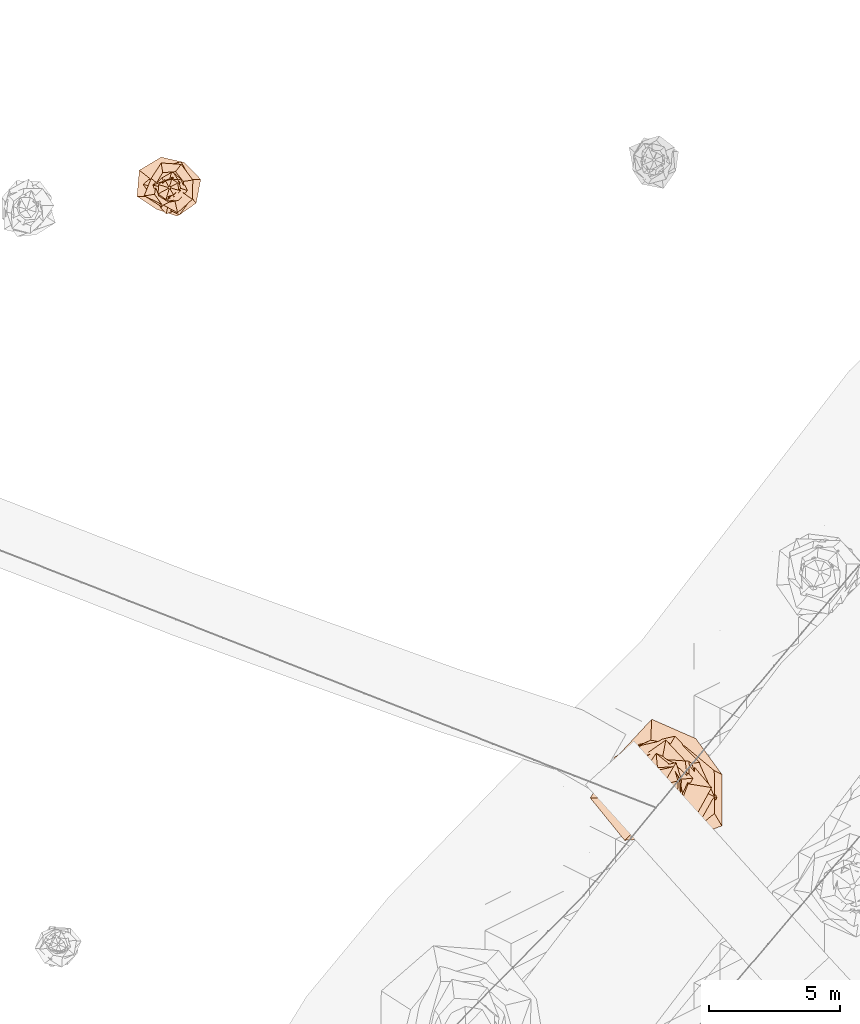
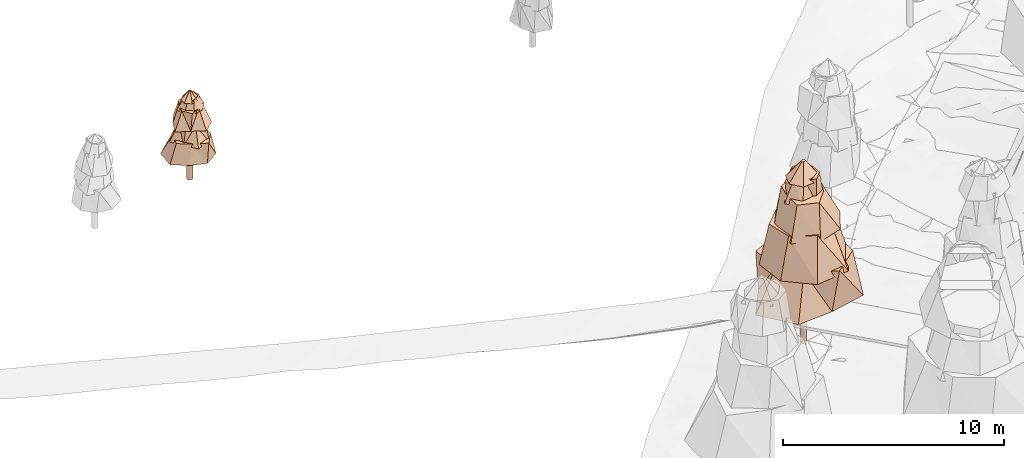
# Not in any storey, part 23 of 88: 2 geographic elements.
"""IFC4 model written with IfcOpenShell, lengths in metres."""

from ifc_helpers import new_model, si_unit, frame, origin_with_axes, place, context, subcontext, project, spatial, circle, extrude, faceted_brep, element, save


model = new_model("IFC4")

# Units and contexts
model_context = context("Model", 3, precision=1e-05, world=origin_with_axes())
body_context = subcontext(model_context, "Body", "Model", "MODEL_VIEW")
ifc_project = project(units=[si_unit("LENGTHUNIT", "METRE"), si_unit("AREAUNIT", "SQUARE_METRE"), si_unit("VOLUMEUNIT", "CUBIC_METRE"), si_unit("PLANEANGLEUNIT", "RADIAN")], contexts=[model_context])

# Sites
site_1_placement = place(None, origin_with_axes())
site_1 = spatial("IfcSite", under=ifc_project, at=site_1_placement, Name="CH907857693633", CompositionType="ELEMENT")
site_2_placement = place(None, origin_with_axes())
site_2 = spatial("IfcSite", under=site_1, at=site_2_placement, Name="Vegetation", CompositionType="ELEMENT")

# Geographic element
geographic_element_1_placement = place(None, frame((29.9160000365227, 45.4330034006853, 2.49444580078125), z_axis=(0.0, 0.0, 1.0), x_axis=(1.0, 0.0, 0.0)))
element("IfcGeographicElement", 1, at=geographic_element_1_placement, inside=site_2, Name="Tree_einzelbaum", ObjectType="VEGETATION", PredefinedType="USERDEFINED", context=body_context, shape_type="Brep", body=[
    extrude(circle(Radius=0.15), origin_with_axes(), (0.0, 0.0, 1.0), 1.36876049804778),
    faceted_brep([(1.02509508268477, -0.594339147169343, 1.36876049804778), (0.289136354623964, -1.08701301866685, 1.36876049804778), (-0.481106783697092, -0.82979591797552, 1.36876049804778), (-1.23784263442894, -0.329255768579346, 1.36876049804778), (-1.15007882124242, 0.666803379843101, 1.36876049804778), (-0.310788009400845, 1.16841278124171, 1.36876049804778), (0.561217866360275, 0.967968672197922, 1.36876049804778), (1.20370304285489, 0.32017492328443, 1.36876049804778), (0.824535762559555, 0.310331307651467, 2.43343140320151), (0.449767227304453, 0.992651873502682, 2.43343140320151), (-0.299798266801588, 0.79654996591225, 2.43343140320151), (-0.711621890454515, 0.322433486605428, 2.43343140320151), (-0.905192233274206, -0.340688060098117, 2.43343140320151), (-0.324277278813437, -0.71569120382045, 2.43343140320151), (0.391330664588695, -1.03974726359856, 2.43343140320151), (0.860430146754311, -0.389858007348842, 2.43343140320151), (1.20370304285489, 0.32017492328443, 1.36876049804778), (0.561217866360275, 0.967968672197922, 1.36876049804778), (0.449767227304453, 0.992651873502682, 2.43343140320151), (0.824535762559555, 0.310331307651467, 2.43343140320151), (0.561217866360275, 0.967968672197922, 1.36876049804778), (-0.310788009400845, 1.16841278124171, 1.36876049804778), (-0.299798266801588, 0.79654996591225, 2.43343140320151), (0.449767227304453, 0.992651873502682, 2.43343140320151), (-0.310788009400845, 1.16841278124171, 1.36876049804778), (-1.15007882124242, 0.666803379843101, 1.36876049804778), (-0.711621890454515, 0.322433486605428, 2.43343140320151), (-0.299798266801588, 0.79654996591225, 2.43343140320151), (-1.15007882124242, 0.666803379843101, 1.36876049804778), (-1.23784263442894, -0.329255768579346, 1.36876049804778), (-0.905192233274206, -0.340688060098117, 2.43343140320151), (-0.711621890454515, 0.322433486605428, 2.43343140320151), (-1.23784263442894, -0.329255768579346, 1.36876049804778), (-0.481106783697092, -0.82979591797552, 1.36876049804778), (-0.324277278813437, -0.71569120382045, 2.43343140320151), (-0.905192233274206, -0.340688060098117, 2.43343140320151), (-0.481106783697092, -0.82979591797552, 1.36876049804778), (0.289136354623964, -1.08701301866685, 1.36876049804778), (0.391330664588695, -1.03974726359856, 2.43343140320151), (-0.324277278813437, -0.71569120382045, 2.43343140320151), (0.289136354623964, -1.08701301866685, 1.36876049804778), (1.02509508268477, -0.594339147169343, 1.36876049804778), (0.860430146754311, -0.389858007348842, 2.43343140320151), (0.391330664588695, -1.03974726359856, 2.43343140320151), (1.02509508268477, -0.594339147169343, 1.36876049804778), (1.20370304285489, 0.32017492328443, 1.36876049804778), (0.824535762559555, 0.310331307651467, 2.43343140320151), (0.860430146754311, -0.389858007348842, 2.43343140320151)], [[[0, 1, 2, 3, 4, 5, 6, 7]], [[8, 9, 10, 11, 12, 13, 14, 15]], [[16, 17, 18, 19]], [[20, 21, 22, 23]], [[24, 25, 26, 27]], [[28, 29, 30, 31]], [[32, 33, 34, 35]], [[36, 37, 38, 39]], [[40, 41, 42, 43]], [[44, 45, 46, 47]]]),
    faceted_brep([(0.743231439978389, -0.0912646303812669, 2.27373076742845), (0.579574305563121, -0.741836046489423, 2.27373076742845), (-0.123508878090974, -1.00581880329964, 2.27373076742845), (-0.589336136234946, -0.460430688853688, 2.27373076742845), (-1.00179940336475, 0.123015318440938, 2.27373076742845), (-0.465725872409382, 0.596113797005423, 2.27373076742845), (0.107082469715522, 0.872047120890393, 2.27373076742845), (0.689609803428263, 0.538771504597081, 2.27373076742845), (0.567504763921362, 0.54286961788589, 3.22220983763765), (0.0173213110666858, 0.780719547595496, 3.22220983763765), (-0.500119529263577, 0.522814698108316, 3.22220983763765), (-0.564111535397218, 0.0125155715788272, 3.22220983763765), (-0.502294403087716, -0.480490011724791, 3.22220983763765), (-0.0119720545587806, -0.539613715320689, 3.22220983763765), (0.524234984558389, -0.548024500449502, 3.22220983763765), (0.792298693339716, -0.0175782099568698, 3.22220983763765), (0.689609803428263, 0.538771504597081, 2.27373076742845), (0.107082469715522, 0.872047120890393, 2.27373076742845), (0.0173213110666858, 0.780719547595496, 3.22220983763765), (0.567504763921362, 0.54286961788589, 3.22220983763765), (0.107082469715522, 0.872047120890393, 2.27373076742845), (-0.465725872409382, 0.596113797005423, 2.27373076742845), (-0.500119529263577, 0.522814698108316, 3.22220983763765), (0.0173213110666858, 0.780719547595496, 3.22220983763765), (-0.465725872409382, 0.596113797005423, 2.27373076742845), (-1.00179940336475, 0.123015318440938, 2.27373076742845), (-0.564111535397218, 0.0125155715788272, 3.22220983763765), (-0.500119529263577, 0.522814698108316, 3.22220983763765), (-1.00179940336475, 0.123015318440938, 2.27373076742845), (-0.589336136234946, -0.460430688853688, 2.27373076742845), (-0.502294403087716, -0.480490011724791, 3.22220983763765), (-0.564111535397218, 0.0125155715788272, 3.22220983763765), (-0.589336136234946, -0.460430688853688, 2.27373076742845), (-0.123508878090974, -1.00581880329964, 2.27373076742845), (-0.0119720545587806, -0.539613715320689, 3.22220983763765), (-0.502294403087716, -0.480490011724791, 3.22220983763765), (-0.123508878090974, -1.00581880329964, 2.27373076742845), (0.579574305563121, -0.741836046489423, 2.27373076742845), (0.524234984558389, -0.548024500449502, 3.22220983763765), (-0.0119720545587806, -0.539613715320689, 3.22220983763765), (0.579574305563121, -0.741836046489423, 2.27373076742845), (0.743231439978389, -0.0912646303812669, 2.27373076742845), (0.792298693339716, -0.0175782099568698, 3.22220983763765), (0.524234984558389, -0.548024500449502, 3.22220983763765), (0.743231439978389, -0.0912646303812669, 2.27373076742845), (0.689609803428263, 0.538771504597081, 2.27373076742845), (0.567504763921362, 0.54286961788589, 3.22220983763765), (0.792298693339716, -0.0175782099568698, 3.22220983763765)], [[[0, 1, 2, 3, 4, 5, 6, 7]], [[8, 9, 10, 11, 12, 13, 14, 15]], [[16, 17, 18, 19]], [[20, 21, 22, 23]], [[24, 25, 26, 27]], [[28, 29, 30, 31]], [[32, 33, 34, 35]], [[36, 37, 38, 39]], [[40, 41, 42, 43]], [[44, 45, 46, 47]]]),
    faceted_brep([(0.880978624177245, -0.446376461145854, 3.07993797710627), (0.314136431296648, -0.959430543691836, 3.07993797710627), (-0.31476478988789, -0.62122686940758, 3.07993797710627), (-0.965692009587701, -0.316186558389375, 3.07993797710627), (-0.696204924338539, 0.352754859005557, 3.07993797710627), (-0.310121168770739, 0.947167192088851, 3.07993797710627), (0.451236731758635, 0.890570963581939, 3.07993797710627), (0.899781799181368, 0.294606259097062, 3.07993797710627), (0.536495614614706, 0.237283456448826, 4.0721412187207), (0.236511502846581, 0.611631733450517, 4.0721412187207), (-0.253915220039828, 0.574099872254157, 4.0721412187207), (-0.488281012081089, 0.188813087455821, 4.0721412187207), (-0.567237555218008, -0.250880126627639, 4.0721412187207), (-0.262888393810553, -0.679843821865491, 4.0721412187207), (0.202500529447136, -0.457851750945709, 4.0721412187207), (0.537304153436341, -0.207769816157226, 4.0721412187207), (0.899781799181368, 0.294606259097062, 3.07993797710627), (0.451236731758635, 0.890570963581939, 3.07993797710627), (0.236511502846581, 0.611631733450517, 4.0721412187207), (0.536495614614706, 0.237283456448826, 4.0721412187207), (0.451236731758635, 0.890570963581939, 3.07993797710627), (-0.310121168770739, 0.947167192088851, 3.07993797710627), (-0.253915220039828, 0.574099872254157, 4.0721412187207), (0.236511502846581, 0.611631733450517, 4.0721412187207), (-0.310121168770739, 0.947167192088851, 3.07993797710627), (-0.696204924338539, 0.352754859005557, 3.07993797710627), (-0.488281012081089, 0.188813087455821, 4.0721412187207), (-0.253915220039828, 0.574099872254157, 4.0721412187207), (-0.696204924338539, 0.352754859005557, 3.07993797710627), (-0.965692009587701, -0.316186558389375, 3.07993797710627), (-0.567237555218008, -0.250880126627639, 4.0721412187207), (-0.488281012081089, 0.188813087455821, 4.0721412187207), (-0.965692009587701, -0.316186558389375, 3.07993797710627), (-0.31476478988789, -0.62122686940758, 3.07993797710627), (-0.262888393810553, -0.679843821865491, 4.0721412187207), (-0.567237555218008, -0.250880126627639, 4.0721412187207), (-0.31476478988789, -0.62122686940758, 3.07993797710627), (0.314136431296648, -0.959430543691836, 3.07993797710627), (0.202500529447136, -0.457851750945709, 4.0721412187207), (-0.262888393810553, -0.679843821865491, 4.0721412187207), (0.314136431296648, -0.959430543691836, 3.07993797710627), (0.880978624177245, -0.446376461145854, 3.07993797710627), (0.537304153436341, -0.207769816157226, 4.0721412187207), (0.202500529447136, -0.457851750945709, 4.0721412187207), (0.880978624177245, -0.446376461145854, 3.07993797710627), (0.899781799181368, 0.294606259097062, 3.07993797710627), (0.536495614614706, 0.237283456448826, 4.0721412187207), (0.537304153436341, -0.207769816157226, 4.0721412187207)], [[[0, 1, 2, 3, 4, 5, 6, 7]], [[8, 9, 10, 11, 12, 13, 14, 15]], [[16, 17, 18, 19]], [[20, 21, 22, 23]], [[24, 25, 26, 27]], [[28, 29, 30, 31]], [[32, 33, 34, 35]], [[36, 37, 38, 39]], [[40, 41, 42, 43]], [[44, 45, 46, 47]]]),
    faceted_brep([(0.691233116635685, -0.107609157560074, 3.92331073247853), (0.354221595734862, -0.48484504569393, 3.92331073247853), (-0.0894935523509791, -0.574866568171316, 3.92331073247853), (-0.460859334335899, -0.336697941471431, 3.92331073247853), (-0.631033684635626, 0.0982374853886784, 3.92331073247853), (-0.310309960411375, 0.424740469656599, 3.92331073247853), (0.102714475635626, 0.659791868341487, 3.92331073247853), (0.472087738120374, 0.344901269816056, 3.92331073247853), (0.333739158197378, 0.299246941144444, 4.52148010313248), (0.0188205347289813, 0.345386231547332, 4.52148010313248), (-0.224119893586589, 0.24995271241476, 4.52148010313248), (-0.320654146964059, 0.017472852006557, 4.52148010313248), (-0.255845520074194, -0.229403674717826, 4.52148010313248), (-0.0200473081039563, -0.367899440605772, 4.52148010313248), (0.216827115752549, -0.241819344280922, 4.52148010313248), (0.43520385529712, -0.0237148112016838, 4.52148010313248), (0.472087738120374, 0.344901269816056, 3.92331073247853), (0.102714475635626, 0.659791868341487, 3.92331073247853), (0.0188205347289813, 0.345386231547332, 4.52148010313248), (0.333739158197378, 0.299246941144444, 4.52148010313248), (0.102714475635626, 0.659791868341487, 3.92331073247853), (-0.310309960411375, 0.424740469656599, 3.92331073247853), (-0.224119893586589, 0.24995271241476, 4.52148010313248), (0.0188205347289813, 0.345386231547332, 4.52148010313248), (-0.310309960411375, 0.424740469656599, 3.92331073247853), (-0.631033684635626, 0.0982374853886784, 3.92331073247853), (-0.320654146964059, 0.017472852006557, 4.52148010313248), (-0.224119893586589, 0.24995271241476, 4.52148010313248), (-0.631033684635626, 0.0982374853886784, 3.92331073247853), (-0.460859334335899, -0.336697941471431, 3.92331073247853), (-0.255845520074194, -0.229403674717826, 4.52148010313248), (-0.320654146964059, 0.017472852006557, 4.52148010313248), (-0.460859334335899, -0.336697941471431, 3.92331073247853), (-0.0894935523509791, -0.574866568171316, 3.92331073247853), (-0.0200473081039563, -0.367899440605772, 4.52148010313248), (-0.255845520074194, -0.229403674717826, 4.52148010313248), (-0.0894935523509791, -0.574866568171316, 3.92331073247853), (0.354221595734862, -0.48484504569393, 3.92331073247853), (0.216827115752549, -0.241819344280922, 4.52148010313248), (-0.0200473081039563, -0.367899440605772, 4.52148010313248), (0.354221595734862, -0.48484504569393, 3.92331073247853), (0.691233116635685, -0.107609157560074, 3.92331073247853), (0.43520385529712, -0.0237148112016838, 4.52148010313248), (0.216827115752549, -0.241819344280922, 4.52148010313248), (0.691233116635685, -0.107609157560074, 3.92331073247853), (0.472087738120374, 0.344901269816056, 3.92331073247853), (0.333739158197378, 0.299246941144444, 4.52148010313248), (0.43520385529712, -0.0237148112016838, 4.52148010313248)], [[[0, 1, 2, 3, 4, 5, 6, 7]], [[8, 9, 10, 11, 12, 13, 14, 15]], [[16, 17, 18, 19]], [[20, 21, 22, 23]], [[24, 25, 26, 27]], [[28, 29, 30, 31]], [[32, 33, 34, 35]], [[36, 37, 38, 39]], [[40, 41, 42, 43]], [[44, 45, 46, 47]]]),
    faceted_brep([(0.43340623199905, -0.123188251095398, 4.43175469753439), (0.18635089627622, -0.334351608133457, 4.43175469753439), (-0.128496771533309, -0.452082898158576, 4.43175469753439), (-0.432781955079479, -0.241211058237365, 4.43175469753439), (-0.410904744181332, 0.116792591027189, 4.43175469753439), (-0.176715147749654, 0.317063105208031, 4.43175469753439), (0.115117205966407, 0.405010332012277, 4.43175469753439), (0.401532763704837, 0.223794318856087, 4.43175469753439), (0.0456067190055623, 0.0317715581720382, 4.85285374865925), (0.0104899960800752, 0.0586692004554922, 4.85285374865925), (-0.0313582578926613, 0.0450134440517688, 4.85285374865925), (-0.0495234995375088, 0.00885475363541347, 4.85285374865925), (-0.0491966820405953, -0.0342724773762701, 4.85285374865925), (-0.00796151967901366, -0.0445277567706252, 4.85285374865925), (0.0318016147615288, -0.0456498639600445, 4.85285374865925), (0.0591846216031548, -0.0105821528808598, 4.85285374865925), (0.401532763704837, 0.223794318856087, 4.43175469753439), (0.115117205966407, 0.405010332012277, 4.43175469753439), (0.0104899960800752, 0.0586692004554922, 4.85285374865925), (0.0456067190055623, 0.0317715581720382, 4.85285374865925), (0.115117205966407, 0.405010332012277, 4.43175469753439), (-0.176715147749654, 0.317063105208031, 4.43175469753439), (-0.0313582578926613, 0.0450134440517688, 4.85285374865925), (0.0104899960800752, 0.0586692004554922, 4.85285374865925), (-0.176715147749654, 0.317063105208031, 4.43175469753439), (-0.410904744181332, 0.116792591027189, 4.43175469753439), (-0.0495234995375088, 0.00885475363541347, 4.85285374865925), (-0.0313582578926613, 0.0450134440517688, 4.85285374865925), (-0.410904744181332, 0.116792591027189, 4.43175469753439), (-0.432781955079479, -0.241211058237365, 4.43175469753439), (-0.0491966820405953, -0.0342724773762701, 4.85285374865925), (-0.0495234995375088, 0.00885475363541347, 4.85285374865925), (-0.432781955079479, -0.241211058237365, 4.43175469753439), (-0.128496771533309, -0.452082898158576, 4.43175469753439), (-0.00796151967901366, -0.0445277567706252, 4.85285374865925), (-0.0491966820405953, -0.0342724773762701, 4.85285374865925), (-0.128496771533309, -0.452082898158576, 4.43175469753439), (0.18635089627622, -0.334351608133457, 4.43175469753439), (0.0318016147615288, -0.0456498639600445, 4.85285374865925), (-0.00796151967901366, -0.0445277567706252, 4.85285374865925), (0.18635089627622, -0.334351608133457, 4.43175469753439), (0.43340623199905, -0.123188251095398, 4.43175469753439), (0.0591846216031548, -0.0105821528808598, 4.85285374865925), (0.0318016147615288, -0.0456498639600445, 4.85285374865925), (0.43340623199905, -0.123188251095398, 4.43175469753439), (0.401532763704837, 0.223794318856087, 4.43175469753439), (0.0456067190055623, 0.0317715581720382, 4.85285374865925), (0.0591846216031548, -0.0105821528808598, 4.85285374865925)], [[[0, 1, 2, 3, 4, 5, 6, 7]], [[8, 9, 10, 11, 12, 13, 14, 15]], [[16, 17, 18, 19]], [[20, 21, 22, 23]], [[24, 25, 26, 27]], [[28, 29, 30, 31]], [[32, 33, 34, 35]], [[36, 37, 38, 39]], [[40, 41, 42, 43]], [[44, 45, 46, 47]]]),
])

# Site
site_3_placement = place(None, origin_with_axes())
site_3 = spatial("IfcSite", under=site_1, at=site_3_placement, Name="Simulated_forest", CompositionType="ELEMENT")

# Geographic element
geographic_element_2_placement = place(None, frame((48.8258304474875, 22.5706683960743, 0.6749267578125), z_axis=(0.0, 0.0, 1.0), x_axis=(1.0, 0.0, 0.0)))
element("IfcGeographicElement", 2, at=geographic_element_2_placement, inside=site_3, Name="Tree_SIMULATED_WOODED_AREA", ObjectType="VEGETATION", PredefinedType="USERDEFINED", context=body_context, shape_type="Brep", body=[
    extrude(circle(Radius=0.15), origin_with_axes(), (0.0, 0.0, 1.0), 2.75978495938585),
    faceted_brep([(2.2382721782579, -1.56396509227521, 2.75978495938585), (0.352939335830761, -1.99013049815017, 2.75978495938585), (-1.48149233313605, -2.12024110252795, 2.75978495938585), (-2.79990287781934, -0.496548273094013, 2.75978495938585), (-1.6885111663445, 1.17982636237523, 2.75978495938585), (-0.446069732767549, 2.51526789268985, 2.75978495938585), (1.24083808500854, 1.77582823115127, 2.75978495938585), (2.24422520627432, 0.398001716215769, 2.75978495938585), (1.94707736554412, 0.550458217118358, 5.04747932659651), (0.828617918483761, 1.48179461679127, 5.04747932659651), (-0.484555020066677, 1.71396498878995, 5.04747932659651), (-1.88442103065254, 1.05376616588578, 5.04747932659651), (-1.71313735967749, -0.484321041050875, 5.04747932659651), (-0.833534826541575, -1.49058738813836, 5.04747932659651), (0.620630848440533, -2.19529155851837, 5.04747932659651), (1.95265625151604, -1.09192322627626, 5.04747932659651), (2.24422520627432, 0.398001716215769, 2.75978495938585), (1.24083808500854, 1.77582823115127, 2.75978495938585), (0.828617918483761, 1.48179461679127, 5.04747932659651), (1.94707736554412, 0.550458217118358, 5.04747932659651), (1.24083808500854, 1.77582823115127, 2.75978495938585), (-0.446069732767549, 2.51526789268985, 2.75978495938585), (-0.484555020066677, 1.71396498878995, 5.04747932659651), (0.828617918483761, 1.48179461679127, 5.04747932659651), (-0.446069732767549, 2.51526789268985, 2.75978495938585), (-1.6885111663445, 1.17982636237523, 2.75978495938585), (-1.88442103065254, 1.05376616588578, 5.04747932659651), (-0.484555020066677, 1.71396498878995, 5.04747932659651), (-1.6885111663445, 1.17982636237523, 2.75978495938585), (-2.79990287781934, -0.496548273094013, 2.75978495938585), (-1.71313735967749, -0.484321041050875, 5.04747932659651), (-1.88442103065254, 1.05376616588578, 5.04747932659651), (-2.79990287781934, -0.496548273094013, 2.75978495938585), (-1.48149233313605, -2.12024110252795, 2.75978495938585), (-0.833534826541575, -1.49058738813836, 5.04747932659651), (-1.71313735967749, -0.484321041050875, 5.04747932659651), (-1.48149233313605, -2.12024110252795, 2.75978495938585), (0.352939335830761, -1.99013049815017, 2.75978495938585), (0.620630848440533, -2.19529155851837, 5.04747932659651), (-0.833534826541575, -1.49058738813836, 5.04747932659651), (0.352939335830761, -1.99013049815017, 2.75978495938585), (2.2382721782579, -1.56396509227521, 2.75978495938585), (1.95265625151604, -1.09192322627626, 5.04747932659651), (0.620630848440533, -2.19529155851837, 5.04747932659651), (2.2382721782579, -1.56396509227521, 2.75978495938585), (2.24422520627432, 0.398001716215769, 2.75978495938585), (1.94707736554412, 0.550458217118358, 5.04747932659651), (1.95265625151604, -1.09192322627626, 5.04747932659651)], [[[0, 1, 2, 3, 4, 5, 6, 7]], [[8, 9, 10, 11, 12, 13, 14, 15]], [[16, 17, 18, 19]], [[20, 21, 22, 23]], [[24, 25, 26, 27]], [[28, 29, 30, 31]], [[32, 33, 34, 35]], [[36, 37, 38, 39]], [[40, 41, 42, 43]], [[44, 45, 46, 47]]]),
    faceted_brep([(2.05092852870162, -0.493429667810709, 4.70432517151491), (1.21217491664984, -1.98023078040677, 4.70432517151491), (-0.53314400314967, -2.21600020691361, 4.70432517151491), (-1.8500227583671, -1.13246961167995, 4.70432517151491), (-2.03327111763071, 0.489181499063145, 4.70432517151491), (-0.948366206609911, 1.5492681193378, 4.70432517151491), (0.449210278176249, 1.86713170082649, 4.70432517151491), (1.4279074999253, 0.874076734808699, 4.70432517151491), (1.08627685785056, 0.824587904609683, 6.97256193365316), (0.196728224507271, 1.43651853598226, 6.97256193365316), (-0.812329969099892, 1.07012877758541, 6.97256193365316), (-1.66671601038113, 0.228253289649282, 6.97256193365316), (-1.37778401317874, -1.04586968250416, 6.97256193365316), (-0.228377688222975, -1.66762437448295, 6.97256193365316), (0.816423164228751, -1.0755209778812, 6.97256193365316), (1.43767274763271, -0.196886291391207, 6.97256193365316), (1.4279074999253, 0.874076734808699, 4.70432517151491), (0.449210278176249, 1.86713170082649, 4.70432517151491), (0.196728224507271, 1.43651853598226, 6.97256193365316), (1.08627685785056, 0.824587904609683, 6.97256193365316), (0.449210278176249, 1.86713170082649, 4.70432517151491), (-0.948366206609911, 1.5492681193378, 4.70432517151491), (-0.812329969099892, 1.07012877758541, 6.97256193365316), (0.196728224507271, 1.43651853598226, 6.97256193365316), (-0.948366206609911, 1.5492681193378, 4.70432517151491), (-2.03327111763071, 0.489181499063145, 4.70432517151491), (-1.66671601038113, 0.228253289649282, 6.97256193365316), (-0.812329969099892, 1.07012877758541, 6.97256193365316), (-2.03327111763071, 0.489181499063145, 4.70432517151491), (-1.8500227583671, -1.13246961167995, 4.70432517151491), (-1.37778401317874, -1.04586968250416, 6.97256193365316), (-1.66671601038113, 0.228253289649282, 6.97256193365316), (-1.8500227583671, -1.13246961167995, 4.70432517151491), (-0.53314400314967, -2.21600020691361, 4.70432517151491), (-0.228377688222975, -1.66762437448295, 6.97256193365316), (-1.37778401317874, -1.04586968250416, 6.97256193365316), (-0.53314400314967, -2.21600020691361, 4.70432517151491), (1.21217491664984, -1.98023078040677, 4.70432517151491), (0.816423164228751, -1.0755209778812, 6.97256193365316), (-0.228377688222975, -1.66762437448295, 6.97256193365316), (1.21217491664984, -1.98023078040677, 4.70432517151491), (2.05092852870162, -0.493429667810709, 4.70432517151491), (1.43767274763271, -0.196886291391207, 6.97256193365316), (0.816423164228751, -1.0755209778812, 6.97256193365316), (2.05092852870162, -0.493429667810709, 4.70432517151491), (1.4279074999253, 0.874076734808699, 4.70432517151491), (1.08627685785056, 0.824587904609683, 6.97256193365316), (1.43767274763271, -0.196886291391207, 6.97256193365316)], [[[0, 1, 2, 3, 4, 5, 6, 7]], [[8, 9, 10, 11, 12, 13, 14, 15]], [[16, 17, 18, 19]], [[20, 21, 22, 23]], [[24, 25, 26, 27]], [[28, 29, 30, 31]], [[32, 33, 34, 35]], [[36, 37, 38, 39]], [[40, 41, 42, 43]], [[44, 45, 46, 47]]]),
    faceted_brep([(1.84409426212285, -0.0995977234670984, 6.63232641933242), (1.17994979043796, -1.31468243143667, 6.63232641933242), (-0.0930859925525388, -1.72352679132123, 6.63232641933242), (-1.35337446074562, -1.21467654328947, 6.63232641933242), (-1.54237038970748, 0.0833019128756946, 6.63232641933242), (-0.910759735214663, 1.01475489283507, 6.63232641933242), (0.0927886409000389, 1.71802119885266, 6.63232641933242), (1.00532626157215, 0.902297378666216, 6.63232641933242), (0.838276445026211, 0.919256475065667, 8.48830365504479), (-0.0451878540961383, 0.980725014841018, 8.48830365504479), (-0.759181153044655, 0.692302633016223, 8.48830365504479), (-0.911159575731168, -0.0419825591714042, 8.48830365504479), (-0.906580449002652, -0.994158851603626, 8.48830365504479), (0.0612220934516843, -1.32872073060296, 8.48830365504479), (0.691570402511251, -0.630647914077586, 8.48830365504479), (0.944485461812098, 0.0435180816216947, 8.48830365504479), (1.00532626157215, 0.902297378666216, 6.63232641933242), (0.0927886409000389, 1.71802119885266, 6.63232641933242), (-0.0451878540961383, 0.980725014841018, 8.48830365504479), (0.838276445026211, 0.919256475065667, 8.48830365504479), (0.0927886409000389, 1.71802119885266, 6.63232641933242), (-0.910759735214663, 1.01475489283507, 6.63232641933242), (-0.759181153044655, 0.692302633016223, 8.48830365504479), (-0.0451878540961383, 0.980725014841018, 8.48830365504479), (-0.910759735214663, 1.01475489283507, 6.63232641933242), (-1.54237038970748, 0.0833019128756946, 6.63232641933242), (-0.911159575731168, -0.0419825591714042, 8.48830365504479), (-0.759181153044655, 0.692302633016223, 8.48830365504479), (-1.54237038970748, 0.0833019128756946, 6.63232641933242), (-1.35337446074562, -1.21467654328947, 6.63232641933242), (-0.906580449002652, -0.994158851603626, 8.48830365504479), (-0.911159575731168, -0.0419825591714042, 8.48830365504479), (-1.35337446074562, -1.21467654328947, 6.63232641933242), (-0.0930859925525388, -1.72352679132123, 6.63232641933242), (0.0612220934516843, -1.32872073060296, 8.48830365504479), (-0.906580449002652, -0.994158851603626, 8.48830365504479), (-0.0930859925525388, -1.72352679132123, 6.63232641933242), (1.17994979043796, -1.31468243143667, 6.63232641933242), (0.691570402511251, -0.630647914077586, 8.48830365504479), (0.0612220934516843, -1.32872073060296, 8.48830365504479), (1.17994979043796, -1.31468243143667, 6.63232641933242), (1.84409426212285, -0.0995977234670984, 6.63232641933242), (0.944485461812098, 0.0435180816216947, 8.48830365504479), (0.691570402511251, -0.630647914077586, 8.48830365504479), (1.84409426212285, -0.0995977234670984, 6.63232641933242), (1.00532626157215, 0.902297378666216, 6.63232641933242), (0.838276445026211, 0.919256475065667, 8.48830365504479), (0.944485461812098, 0.0435180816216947, 8.48830365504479)], [[[0, 1, 2, 3, 4, 5, 6, 7]], [[8, 9, 10, 11, 12, 13, 14, 15]], [[16, 17, 18, 19]], [[20, 21, 22, 23]], [[24, 25, 26, 27]], [[28, 29, 30, 31]], [[32, 33, 34, 35]], [[36, 37, 38, 39]], [[40, 41, 42, 43]], [[44, 45, 46, 47]]]),
    faceted_brep([(0.771452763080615, -0.481665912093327, 8.20990706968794), (0.189633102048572, -0.820026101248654, 8.20990706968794), (-0.59618346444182, -0.954868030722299, 8.20990706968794), (-1.13826490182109, -0.263226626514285, 8.20990706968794), (-0.761481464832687, 0.475440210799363, 8.20990706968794), (-0.28008172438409, 1.21115101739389, 8.20990706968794), (0.528269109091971, 0.846094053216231, 8.20990706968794), (1.13262647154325, 0.261922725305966, 8.20990706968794), (0.621422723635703, 0.210950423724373, 9.3774619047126), (0.34516060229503, 0.699931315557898, 9.3774619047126), (-0.223330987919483, 0.657893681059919, 9.3774619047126), (-0.485833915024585, 0.239581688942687, 9.3774619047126), (-0.626097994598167, -0.212537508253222, 9.3774619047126), (-0.250352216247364, -0.507674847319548, 9.3774619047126), (0.256909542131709, -0.756810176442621, 9.3774619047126), (0.65163921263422, -0.321346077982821, 9.3774619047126), (1.13262647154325, 0.261922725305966, 8.20990706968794), (0.528269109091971, 0.846094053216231, 8.20990706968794), (0.34516060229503, 0.699931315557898, 9.3774619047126), (0.621422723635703, 0.210950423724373, 9.3774619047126), (0.528269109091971, 0.846094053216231, 8.20990706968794), (-0.28008172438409, 1.21115101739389, 8.20990706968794), (-0.223330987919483, 0.657893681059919, 9.3774619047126), (0.34516060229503, 0.699931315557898, 9.3774619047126), (-0.28008172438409, 1.21115101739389, 8.20990706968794), (-0.761481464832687, 0.475440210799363, 8.20990706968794), (-0.485833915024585, 0.239581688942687, 9.3774619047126), (-0.223330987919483, 0.657893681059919, 9.3774619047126), (-0.761481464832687, 0.475440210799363, 8.20990706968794), (-1.13826490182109, -0.263226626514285, 8.20990706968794), (-0.626097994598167, -0.212537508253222, 9.3774619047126), (-0.485833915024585, 0.239581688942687, 9.3774619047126), (-1.13826490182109, -0.263226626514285, 8.20990706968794), (-0.59618346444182, -0.954868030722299, 8.20990706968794), (-0.250352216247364, -0.507674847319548, 9.3774619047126), (-0.626097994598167, -0.212537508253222, 9.3774619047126), (-0.59618346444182, -0.954868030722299, 8.20990706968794), (0.189633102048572, -0.820026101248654, 8.20990706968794), (0.256909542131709, -0.756810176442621, 9.3774619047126), (-0.250352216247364, -0.507674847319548, 9.3774619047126), (0.189633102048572, -0.820026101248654, 8.20990706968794), (0.771452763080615, -0.481665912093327, 8.20990706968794), (0.65163921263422, -0.321346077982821, 9.3774619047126), (0.256909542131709, -0.756810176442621, 9.3774619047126), (0.771452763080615, -0.481665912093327, 8.20990706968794), (1.13262647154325, 0.261922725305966, 8.20990706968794), (0.621422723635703, 0.210950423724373, 9.3774619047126), (0.65163921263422, -0.321346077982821, 9.3774619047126)], [[[0, 1, 2, 3, 4, 5, 6, 7]], [[8, 9, 10, 11, 12, 13, 14, 15]], [[16, 17, 18, 19]], [[20, 21, 22, 23]], [[24, 25, 26, 27]], [[28, 29, 30, 31]], [[32, 33, 34, 35]], [[36, 37, 38, 39]], [[40, 41, 42, 43]], [[44, 45, 46, 47]]]),
    faceted_brep([(0.662792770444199, -0.375061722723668, 9.2023286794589), (0.199550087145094, -0.719783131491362, 9.2023286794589), (-0.444518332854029, -0.785533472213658, 9.2023286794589), (-0.898480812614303, -0.249091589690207, 9.2023286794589), (-0.698832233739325, 0.395455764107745, 9.2023286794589), (-0.194700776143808, 0.702291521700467, 9.2023286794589), (0.485733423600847, 0.858366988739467, 9.2023286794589), (0.690284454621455, 0.191371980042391, 9.2023286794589), (0.103036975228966, 0.0400169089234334, 10.0310708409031), (0.0478489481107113, 0.108615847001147, 10.0310708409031), (-0.0353517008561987, 0.0910248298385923, 10.0310708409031), (-0.0878656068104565, 0.0387077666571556, 10.0310708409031), (-0.104439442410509, -0.0405615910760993, 10.0310708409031), (-0.0443776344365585, -0.100736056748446, 10.0310708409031), (0.0307835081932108, -0.0792624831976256, 10.0310708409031), (0.0909526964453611, -0.0400677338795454, 10.0310708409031), (0.690284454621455, 0.191371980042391, 9.2023286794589), (0.485733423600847, 0.858366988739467, 9.2023286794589), (0.0478489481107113, 0.108615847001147, 10.0310708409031), (0.103036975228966, 0.0400169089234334, 10.0310708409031), (0.485733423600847, 0.858366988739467, 9.2023286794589), (-0.194700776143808, 0.702291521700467, 9.2023286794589), (-0.0353517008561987, 0.0910248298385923, 10.0310708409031), (0.0478489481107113, 0.108615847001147, 10.0310708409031), (-0.194700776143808, 0.702291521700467, 9.2023286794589), (-0.698832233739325, 0.395455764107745, 9.2023286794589), (-0.0878656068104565, 0.0387077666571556, 10.0310708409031), (-0.0353517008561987, 0.0910248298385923, 10.0310708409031), (-0.698832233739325, 0.395455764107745, 9.2023286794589), (-0.898480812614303, -0.249091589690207, 9.2023286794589), (-0.104439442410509, -0.0405615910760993, 10.0310708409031), (-0.0878656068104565, 0.0387077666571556, 10.0310708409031), (-0.898480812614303, -0.249091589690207, 9.2023286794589), (-0.444518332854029, -0.785533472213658, 9.2023286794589), (-0.0443776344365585, -0.100736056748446, 10.0310708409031), (-0.104439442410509, -0.0405615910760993, 10.0310708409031), (-0.444518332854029, -0.785533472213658, 9.2023286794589), (0.199550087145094, -0.719783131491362, 9.2023286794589), (0.0307835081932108, -0.0792624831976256, 10.0310708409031), (-0.0443776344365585, -0.100736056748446, 10.0310708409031), (0.199550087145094, -0.719783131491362, 9.2023286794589), (0.662792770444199, -0.375061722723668, 9.2023286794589), (0.0909526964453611, -0.0400677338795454, 10.0310708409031), (0.0307835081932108, -0.0792624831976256, 10.0310708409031), (0.662792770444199, -0.375061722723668, 9.2023286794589), (0.690284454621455, 0.191371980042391, 9.2023286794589), (0.103036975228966, 0.0400169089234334, 10.0310708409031), (0.0909526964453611, -0.0400677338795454, 10.0310708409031)], [[[0, 1, 2, 3, 4, 5, 6, 7]], [[8, 9, 10, 11, 12, 13, 14, 15]], [[16, 17, 18, 19]], [[20, 21, 22, 23]], [[24, 25, 26, 27]], [[28, 29, 30, 31]], [[32, 33, 34, 35]], [[36, 37, 38, 39]], [[40, 41, 42, 43]], [[44, 45, 46, 47]]]),
])

save(model, "model.ifc")
